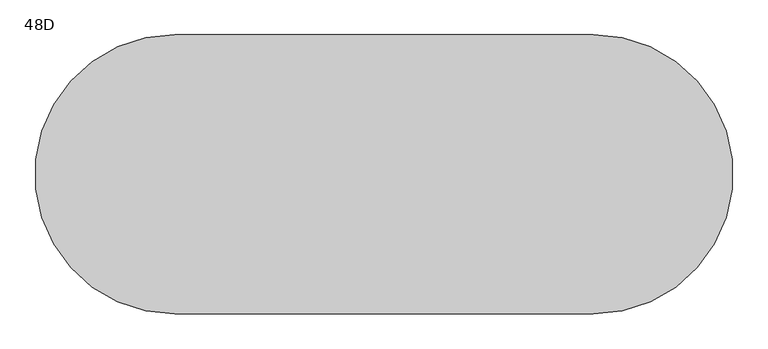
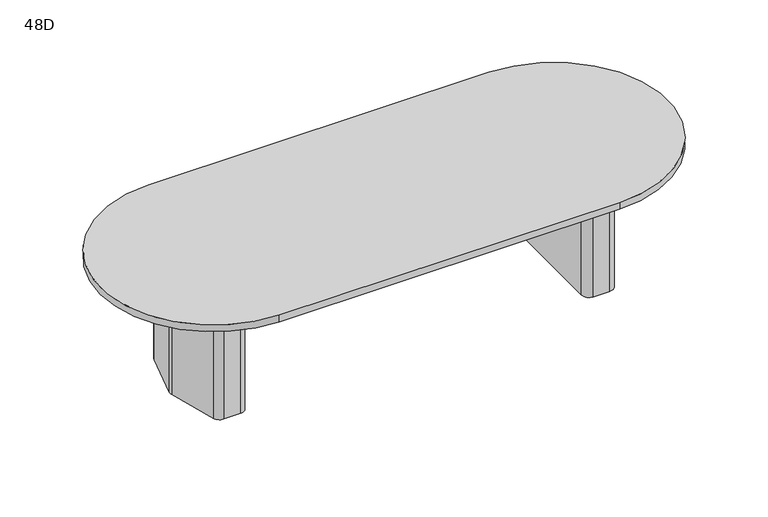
"""IFC4 building model written with IfcOpenShell, lengths in millimetres: furniture geometry, Coalesse_AM_Table_Conference_ETable2_Racetrack_10ft_TwoBase : 48D."""

import ifcopenshell
import ifcopenshell.guid

model = None  # the IFC model being written
_history = None  # IfcOwnerHistory: only IFC2X3 demands one
_inside = {}  # id of a spatial element -> (the spatial element, [elements in it])
_under = {}  # id of a project, library or spatial element -> (it, [spatial elements below it])
_declared = {}  # id of a project -> (the project, [libraries it declares])
_typed = {}  # id of a type object -> (the type object, [elements of that type])
_made_of = {}  # id of a material, layer set ... -> (it, [elements and type objects made of it])


def new_model(schema):
    """Start an empty IFC model of exactly this schema.

    Asked for "IFC4X3", IfcOpenShell would pick the latest addendum, in which some entities
    have other attributes; the version numbers below select the first issue.
    IFC2X3 requires an IfcOwnerHistory on every rooted entity: one is made here for all.
    """
    global model, _history
    if schema == "IFC4X3":
        model = ifcopenshell.file(schema_version=(4, 3, 0, 0))
    else:
        model = ifcopenshell.file(schema=schema)
    _inside.clear()
    _under.clear()
    _declared.clear()
    _typed.clear()
    _made_of.clear()
    _history = None
    if model.schema == "IFC2X3":
        org = make("IfcOrganization", Name="unknown")
        user = make(
            "IfcPersonAndOrganization",
            ThePerson=make("IfcPerson", FamilyName="unknown"),
            TheOrganization=org,
        )
        app = make(
            "IfcApplication",
            ApplicationDeveloper=org,
            Version="unknown",
            ApplicationFullName="unknown",
            ApplicationIdentifier="unknown",
        )
        _history = make(
            "IfcOwnerHistory",
            OwningUser=user,
            OwningApplication=app,
            ChangeAction="ADDED",
            CreationDate=0,
        )
    return model


def make(cls, **values):
    """One entity of the class cls with the attributes given. An attribute that is None is left unset."""
    return model.create_entity(
        cls, **{name: value for name, value in values.items() if value is not None}
    )


def rooted(cls, **values):
    """An entity with a GlobalId (a new one), such as an element, a storey or a relation."""
    return make(cls, GlobalId=ifcopenshell.guid.new(), OwnerHistory=_history, **values)


def si_unit(unit_type, name, prefix=None):
    """IfcSIUnit, for example si_unit("LENGTHUNIT", "METRE", prefix="MILLI")."""
    return make("IfcSIUnit", UnitType=unit_type, Prefix=prefix, Name=name)


def assignment(units):
    """IfcUnitAssignment: the units of a project."""
    return None if units is None else make("IfcUnitAssignment", Units=units)


def point(xyz):
    """IfcCartesianPoint."""
    return None if xyz is None else make("IfcCartesianPoint", Coordinates=xyz)


def direction(xyz):
    """IfcDirection."""
    return None if xyz is None else make("IfcDirection", DirectionRatios=xyz)


def frame(location, z_axis=None, x_axis=None):
    """IfcAxis2Placement3D, a coordinate frame: its origin and axes. An axis left out is left unset."""
    return make(
        "IfcAxis2Placement3D",
        Location=point(location),
        Axis=direction(z_axis),
        RefDirection=direction(x_axis),
    )


def frame_2d(location, x_axis=None):
    """IfcAxis2Placement2D, a coordinate frame in the plane: its origin and x axis."""
    return make(
        "IfcAxis2Placement2D", Location=point(location), RefDirection=direction(x_axis)
    )


def origin():
    """The frame at (0, 0, 0) with its axes left unset."""
    return frame((0.0, 0.0, 0.0))


def place(relative_to, where):
    """IfcLocalPlacement: puts the frame where relative to a parent placement (None: the world)."""
    return make(
        "IfcLocalPlacement", PlacementRelTo=relative_to, RelativePlacement=where
    )


def context(
    kind, dimensions, precision=None, world=None, true_north=None, identifier=None
):
    """IfcGeometricRepresentationContext, for example the 3D "Model" context."""
    return make(
        "IfcGeometricRepresentationContext",
        ContextIdentifier=identifier,
        ContextType=kind,
        CoordinateSpaceDimension=dimensions,
        Precision=precision,
        WorldCoordinateSystem=world,
        TrueNorth=true_north,
    )


def project(units=None, contexts=None):
    """IfcProject with its units and contexts."""
    return rooted(
        "IfcProject",
        Name="project",
        RepresentationContexts=contexts,
        UnitsInContext=assignment(units),
    )


def spatial(cls, under=None, at=None, **own):
    """A site, building, storey or space (cls), placed at a placement, below another one or the project."""
    s = rooted(cls, ObjectPlacement=at, **own)
    if under is not None:
        _under.setdefault(under.id(), (under, []))[1].append(s)
    return s


def polyline(points):
    """IfcPolyline through the points."""
    return make("IfcPolyline", Points=[point(p) for p in points])


def circle_curve(where, radius):
    """IfcCircle in the frame where."""
    return make("IfcCircle", Position=where, Radius=radius)


def trimmed(basis, trim1, trim2, sense, master):
    """IfcTrimmedCurve: the piece of a basis curve between two trims."""
    return make(
        "IfcTrimmedCurve",
        BasisCurve=basis,
        Trim1=trim1,
        Trim2=trim2,
        SenseAgreement=sense,
        MasterRepresentation=master,
    )


def segment(curve, same_sense, transition):
    """IfcCompositeCurveSegment."""
    return make(
        "IfcCompositeCurveSegment",
        Transition=transition,
        SameSense=same_sense,
        ParentCurve=curve,
    )


def composite_curve(segments, self_intersect=None):
    """IfcCompositeCurve: segments joined end to end."""
    return make("IfcCompositeCurve", Segments=segments, SelfIntersect=self_intersect)


def outline(outer, holes=None, kind="AREA"):
    """IfcArbitraryClosedProfileDef: a profile drawn as a closed curve; with holes, ...WithVoids."""
    if holes is None:
        return make("IfcArbitraryClosedProfileDef", ProfileType=kind, OuterCurve=outer)
    return make(
        "IfcArbitraryProfileDefWithVoids",
        ProfileType=kind,
        OuterCurve=outer,
        InnerCurves=holes,
    )


def extrude(swept, where, along, depth):
    """IfcExtrudedAreaSolid: the profile swept, set in the frame where, extruded along a direction by depth."""
    return make(
        "IfcExtrudedAreaSolid",
        SweptArea=swept,
        Position=where,
        ExtrudedDirection=direction(along),
        Depth=depth,
    )


def shape(context_of_items, identifier, shape_type, items):
    """IfcShapeRepresentation: the items that make up one representation, for example the "Body"."""
    return make(
        "IfcShapeRepresentation",
        ContextOfItems=context_of_items,
        RepresentationIdentifier=identifier,
        RepresentationType=shape_type,
        Items=items,
    )


def source(mapping_origin, context_of_items, identifier, shape_type, items):
    """IfcRepresentationMap: a shape defined once, which mapped items show again and again."""
    return make(
        "IfcRepresentationMap",
        MappingOrigin=mapping_origin,
        MappedRepresentation=shape(context_of_items, identifier, shape_type, items),
    )


def transform(
    local_origin,
    x_axis=None,
    y_axis=None,
    z_axis=None,
    scale=None,
    scale2=None,
    scale3=None,
    uniform=True,
):
    """IfcCartesianTransformationOperator3D, or its non-uniform kind. x_axis, y_axis, z_axis: its Axis1, 2, 3."""
    if uniform:
        return make(
            "IfcCartesianTransformationOperator3D",
            Axis1=direction(x_axis),
            Axis2=direction(y_axis),
            LocalOrigin=point(local_origin),
            Scale=scale,
            Axis3=direction(z_axis),
        )
    return make(
        "IfcCartesianTransformationOperator3DnonUniform",
        Axis1=direction(x_axis),
        Axis2=direction(y_axis),
        LocalOrigin=point(local_origin),
        Scale=scale,
        Axis3=direction(z_axis),
        Scale2=scale2,
        Scale3=scale3,
    )


def mapped(mapping_source, mapping_target):
    """IfcMappedItem: shows the shape of a source again, moved by a transform."""
    return make(
        "IfcMappedItem", MappingSource=mapping_source, MappingTarget=mapping_target
    )


def made_of(thing, what):
    """Note that an element or type object is made of a material, layer set ...; save() writes the relation."""
    if what is not None:
        _made_of.setdefault(what.id(), (what, []))[1].append(thing)
    return thing


def element(
    cls,
    number,
    at=None,
    inside=None,
    cuts=None,
    type_object=None,
    material=None,
    context=None,
    identifier="Body",
    shape_type=None,
    held_by="IfcProductDefinitionShape",
    body=None,
    shapes=None,
    **own,
):
    """One element of the class cls, such as IfcWall. Its Tag is "e" and its number.

    at: its placement. inside: the storey or other place that contains it. cuts: it is an
    opening in that element (IfcRelVoidsElement). A single representation is given by context,
    identifier, shape_type and body (its items); several are given by shapes. held_by: the class
    of the entity that holds the representations. save() writes the other relations.
    """
    e = rooted(cls, Tag="e%d" % number, ObjectPlacement=at, **own)
    if body is not None:
        shapes = [shape(context, identifier, shape_type, body)]
    if shapes is not None:
        e.Representation = make(held_by, Representations=shapes)
    if inside is not None:
        _inside.setdefault(inside.id(), (inside, []))[1].append(e)
    if cuts is not None:
        rooted(
            "IfcRelVoidsElement", RelatingBuildingElement=cuts, RelatedOpeningElement=e
        )
    if type_object is not None:
        _typed.setdefault(type_object.id(), (type_object, []))[1].append(e)
    return made_of(e, material)


def aggregate(whole, parts):
    """IfcRelAggregates: a whole, such as a stair, and the parts it consists of."""
    return rooted("IfcRelAggregates", RelatingObject=whole, RelatedObjects=parts)


def save(model, path):
    """Write the relations noted so far, then the file.

    IfcRelAggregates (storeys below a building ...), IfcRelContainedInSpatialStructure (elements
    in a storey), IfcRelDefinesByType, IfcRelAssociatesMaterial and IfcRelDeclares: one each for
    every whole, place, type object, material and project.
    """
    for whole, parts in _under.values():
        aggregate(whole, parts)
    for where, things in _inside.values():
        rooted(
            "IfcRelContainedInSpatialStructure",
            RelatedElements=things,
            RelatingStructure=where,
        )
    for kind, things in _typed.values():
        rooted("IfcRelDefinesByType", RelatedObjects=things, RelatingType=kind)
    for what, things in _made_of.values():
        rooted("IfcRelAssociatesMaterial", RelatedObjects=things, RelatingMaterial=what)
    for by, libraries in _declared.values():
        rooted("IfcRelDeclares", RelatingContext=by, RelatedDefinitions=libraries)
    model.write(path)


def plane_surface(at):
    """IfcPlane: the flat surface through the origin of the frame at, square to its z axis."""
    return make("IfcPlane", Position=at)


def cylinder_surface(at, radius):
    """IfcCylindricalSurface: all points at the distance radius from the z axis of the frame at."""
    return make("IfcCylindricalSurface", Position=at, Radius=radius)


def revolved_surface(curve, axis_point, axis_direction):
    """IfcSurfaceOfRevolution: the curve turned about the line through axis_point along axis_direction."""
    return make(
        "IfcSurfaceOfRevolution",
        SweptCurve=make("IfcArbitraryOpenProfileDef", ProfileType="CURVE", Curve=curve),
        AxisPosition=make("IfcAxis1Placement", Location=point(axis_point), Axis=direction(axis_direction)),
    )


def advanced_brep(points, edges, surfaces, faces):
    """IfcAdvancedBrep: a solid bounded by faces that lie on surfaces and meet in shared edges.

    An edge is (start, end): straight between two places in points (the first is 0);
    or (start, end, curve); or (start, end, curve, False) where it runs against its curve.
    A face is (place in surfaces, loops), or (place, loops, False) where it looks against
    its surface's normal. A loop lists edges by number (the first is 1), with a minus sign
    where the edge is run from its end to its start. The first loop is the outer one.
    """
    corners = [point(p) for p in points]
    vertices = [make("IfcVertexPoint", VertexGeometry=c) for c in corners]
    made = []
    for start, end, *more in edges:
        made.append(
            make(
                "IfcEdgeCurve",
                EdgeStart=vertices[start],
                EdgeEnd=vertices[end],
                EdgeGeometry=more[0] if more else make("IfcPolyline", Points=[corners[start], corners[end]]),
                SameSense=more[1] if len(more) > 1 else True,
            )
        )
    hull = []
    for where, loops, *sense in faces:
        bounds = []
        for j, loop in enumerate(loops):
            ring = [make("IfcOrientedEdge", EdgeElement=made[abs(k) - 1], Orientation=k > 0) for k in loop]
            bounds.append(
                make(
                    "IfcFaceOuterBound" if j == 0 else "IfcFaceBound",
                    Bound=make("IfcEdgeLoop", EdgeList=ring),
                    Orientation=True,
                )
            )
        hull.append(make("IfcAdvancedFace", Bounds=bounds, FaceSurface=surfaces[where], SameSense=sense[0] if sense else True))
    return make("IfcAdvancedBrep", Outer=make("IfcClosedShell", CfsFaces=hull))


def furniture_48d_55570f43(model_context):
    return source(origin(), model_context, "Body", "SolidModel", [
        advanced_brep(
        [(1078.124548, 274.2093613, 698.5), (1038.2579246, 304.8, 698.5), (949.325, 304.8, 698.5), (908.05, 263.525, 698.5), (908.05, -263.525, 698.5), (949.325, -304.8, 698.5), (1038.2579246, -304.8, 698.5), (1078.124548, -274.2093613, 698.5), (1148.7503901, -10.6333708, 698.5), (1148.7503901, 10.6333708, 698.5), (946.15, -206.375, 698.5), (946.15, 206.375, 698.5), (971.55, 231.775, 698.5), (1030.5608422, 231.775, 698.5), (1055.095338, 212.9490792, 698.5), (1093.7875, 68.54974, 698.5), (1093.7875, -68.54974, 698.5), (1055.095338, -212.9490792, 698.5), (1030.5608422, -231.775, 698.5), (971.55, -231.775, 698.5), (1078.124548, 274.2093613, 3.175), (1148.7503901, 10.6333708, 3.175), (1148.7503901, -10.6333708, 3.175), (1078.124548, -274.2093613, 3.175), (1038.2579246, -304.8, 3.175), (949.325, -304.8, 3.175), (908.05, -263.525, 3.175), (908.05, 263.525, 3.175), (949.325, 304.8, 3.175), (1038.2579246, 304.8, 3.175), (1067.3625859, 216.2361187, 3.175), (1030.5608422, 244.475, 3.175), (971.55, 244.475, 3.175), (933.45, 206.375, 3.175), (933.45, -206.375, 3.175), (971.55, -244.475, 3.175), (1030.5608422, -244.475, 3.175), (1067.3625859, -216.2361187, 3.175), (1106.4875, -70.2217466, 3.175), (1106.4875, 70.2217466, 3.175), (971.55, -231.775, 3.175), (946.15, -206.375, 3.175), (1030.5608422, -231.775, 3.175), (1055.095338, -212.9490792, 3.175), (1093.7875, -68.54974, 3.175), (1093.7875, 68.54974, 3.175), (1055.095338, 212.9490792, 3.175), (1030.5608422, 231.775, 3.175), (971.55, 231.775, 3.175), (946.15, 206.375, 3.175), (1067.3625859, 216.2361187, 0.0), (1106.4875, 70.2217466, 0.0), (1106.4875, -70.2217466, 0.0), (1067.3625859, -216.2361187, 0.0), (1030.5608422, -244.475, 0.0), (971.55, -244.475, 0.0), (933.45, -206.375, 0.0), (933.45, 206.375, 0.0), (971.55, 244.475, 0.0), (1030.5608422, 244.475, 0.0)],
        [
            (0, 1, circle_curve(frame((1038.2579246, 263.5270004, 698.5), z_axis=(0.0, 0.0, 1.0), x_axis=(-1.0, 0.0, 0.0)), 41.2729996)),
            (1, 2),
            (2, 3, circle_curve(frame((949.325, 263.525, 698.5), z_axis=(0.0, 0.0, 1.0), x_axis=(-1.0, 0.0, 0.0)), 41.275)),
            (3, 4),
            (4, 5, circle_curve(frame((949.325, -263.525, 698.5), z_axis=(0.0, 0.0, 1.0), x_axis=(-1.0, 0.0, 0.0)), 41.275)),
            (5, 6),
            (6, 7, circle_curve(frame((1038.2579246, -263.5270004, 698.5), z_axis=(0.0, 0.0, 1.0), x_axis=(-1.0, 0.0, 0.0)), 41.2729996)),
            (7, 8),
            (8, 9, circle_curve(frame((1109.0665979, 0.0, 698.5), z_axis=(0.0, 0.0, 1.0), x_axis=(-1.0, 0.0, 0.0)), 41.0837187)),
            (9, 0),
            (10, 11),
            (11, 12, circle_curve(frame((971.55, 206.375, 698.5), z_axis=(0.0, 0.0, -1.0), x_axis=(-1.0, 0.0, 0.0)), 25.4)),
            (12, 13),
            (13, 14, circle_curve(frame((1030.5608422, 206.375, 698.5), z_axis=(0.0, 0.0, -1.0), x_axis=(-1.0, 0.0, 0.0)), 25.4)),
            (14, 15),
            (15, 16),
            (16, 17),
            (17, 18, circle_curve(frame((1030.5608422, -206.375, 698.5), z_axis=(0.0, 0.0, -1.0), x_axis=(-1.0, 0.0, 0.0)), 25.4)),
            (18, 19),
            (19, 10, circle_curve(frame((971.55, -206.375, 698.5), z_axis=(0.0, 0.0, -1.0), x_axis=(-1.0, 0.0, 0.0)), 25.4)),
            (20, 21),
            (21, 22, circle_curve(frame((1109.0665979, 0.0, 3.175), z_axis=(0.0, 0.0, -1.0), x_axis=(-1.0, 0.0, 0.0)), 41.0837187)),
            (22, 23),
            (23, 24, circle_curve(frame((1038.2579246, -263.5270004, 3.175), z_axis=(0.0, 0.0, -1.0), x_axis=(-1.0, 0.0, 0.0)), 41.2729996)),
            (24, 25),
            (25, 26, circle_curve(frame((949.325, -263.525, 3.175), z_axis=(0.0, 0.0, -1.0), x_axis=(-1.0, 0.0, 0.0)), 41.275)),
            (26, 27),
            (27, 28, circle_curve(frame((949.325, 263.525, 3.175), z_axis=(0.0, 0.0, -1.0), x_axis=(-1.0, 0.0, 0.0)), 41.275)),
            (28, 29),
            (29, 20, circle_curve(frame((1038.2579246, 263.5270004, 3.175), z_axis=(0.0, 0.0, -1.0), x_axis=(-1.0, 0.0, 0.0)), 41.2729996)),
            (30, 31, circle_curve(frame((1030.5608422, 206.375, 3.175), z_axis=(0.0, 0.0, 1.0), x_axis=(-1.0, 0.0, 0.0)), 38.1)),
            (31, 32),
            (32, 33, circle_curve(frame((971.55, 206.375, 3.175), z_axis=(0.0, 0.0, 1.0), x_axis=(-1.0, 0.0, 0.0)), 38.1)),
            (33, 34),
            (34, 35, circle_curve(frame((971.55, -206.375, 3.175), z_axis=(0.0, 0.0, 1.0), x_axis=(-1.0, 0.0, 0.0)), 38.1)),
            (35, 36),
            (36, 37, circle_curve(frame((1030.5608422, -206.375, 3.175), z_axis=(0.0, 0.0, 1.0), x_axis=(-1.0, 0.0, 0.0)), 38.1)),
            (37, 38),
            (38, 39),
            (39, 30),
            (9, 21),
            (20, 0),
            (8, 22),
            (7, 23),
            (6, 24),
            (5, 25),
            (4, 26),
            (3, 27),
            (2, 28),
            (1, 29),
            (19, 40),
            (40, 41, circle_curve(frame((971.55, -206.375, 3.175), z_axis=(0.0, 0.0, -1.0), x_axis=(-1.0, 0.0, 0.0)), 25.4)),
            (41, 10),
            (18, 42),
            (42, 40),
            (17, 43),
            (43, 42, circle_curve(frame((1030.5608422, -206.375, 3.175), z_axis=(0.0, 0.0, -1.0), x_axis=(-1.0, 0.0, 0.0)), 25.4)),
            (16, 44),
            (44, 43),
            (15, 45),
            (45, 44),
            (14, 46),
            (46, 45),
            (13, 47),
            (47, 46, circle_curve(frame((1030.5608422, 206.375, 3.175), z_axis=(0.0, 0.0, -1.0), x_axis=(-1.0, 0.0, 0.0)), 25.4)),
            (12, 48),
            (48, 47),
            (11, 49),
            (49, 48, circle_curve(frame((971.55, 206.375, 3.175), z_axis=(0.0, 0.0, -1.0), x_axis=(-1.0, 0.0, 0.0)), 25.4)),
            (41, 49),
            (50, 51),
            (51, 52),
            (52, 53),
            (53, 54, circle_curve(frame((1030.5608422, -206.375, 0.0), z_axis=(0.0, 0.0, -1.0), x_axis=(-1.0, 0.0, 0.0)), 38.1)),
            (54, 55),
            (55, 56, circle_curve(frame((971.55, -206.375, 0.0), z_axis=(0.0, 0.0, -1.0), x_axis=(-1.0, 0.0, 0.0)), 38.1)),
            (56, 57),
            (57, 58, circle_curve(frame((971.55, 206.375, 0.0), z_axis=(0.0, 0.0, -1.0), x_axis=(-1.0, 0.0, 0.0)), 38.1)),
            (58, 59),
            (59, 50, circle_curve(frame((1030.5608422, 206.375, 0.0), z_axis=(0.0, 0.0, -1.0), x_axis=(-1.0, 0.0, 0.0)), 38.1)),
            (50, 30),
            (39, 51),
            (38, 52),
            (37, 53),
            (36, 54),
            (35, 55),
            (34, 56),
            (33, 57),
            (32, 58),
            (31, 59),
        ],
        [
            plane_surface(frame((1148.7374275, 10.6817473, 698.5), z_axis=(0.0, 0.0, 1.0000000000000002), x_axis=(0.25882201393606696, -0.9659250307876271, 0.0))),
            plane_surface(frame((1148.7374275, 10.6817473, 3.175), z_axis=(0.0, 0.0, -1.0000000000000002), x_axis=(-0.25882201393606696, 0.9659250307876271, 0.0))),
            plane_surface(frame((1078.124548, 274.2093613, 698.5), z_axis=(0.9659250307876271, 0.25882201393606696, 0.0), x_axis=(0.0, 0.0, -1.0))),
            cylinder_surface(frame((1109.0665979, 0.0, 3.175), z_axis=(0.0, 0.0, 1.0), x_axis=(-1.0, 0.0, 0.0)), 41.0837187),
            plane_surface(frame((1148.7503901, -10.6333708, 698.5), z_axis=(0.9659250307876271, -0.2588220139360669, 0.0), x_axis=(0.0, 0.0, -1.0))),
            cylinder_surface(frame((1038.2579246, -263.5270004, 3.175), z_axis=(0.0, 0.0, 1.0), x_axis=(-1.0, 0.0, 0.0)), 41.2729996),
            plane_surface(frame((1038.2579246, -304.8, 698.5), z_axis=(0.0, -1.0, 0.0), x_axis=(0.0, 0.0, -1.0))),
            cylinder_surface(frame((949.325, -263.525, 3.175), z_axis=(0.0, 0.0, 1.0), x_axis=(-1.0, 0.0, 0.0)), 41.275),
            plane_surface(frame((908.05, -263.525, 698.5), z_axis=(-1.0, 0.0, 0.0), x_axis=(0.0, 0.0, -1.0))),
            cylinder_surface(frame((949.325, 263.525, 3.175), z_axis=(0.0, 0.0, 1.0), x_axis=(-1.0, 0.0, 0.0)), 41.275),
            plane_surface(frame((949.325, 304.8, 698.5), z_axis=(0.0, 1.0, 0.0), x_axis=(0.0, 0.0, -1.0))),
            cylinder_surface(frame((1038.2579246, 263.5270004, 3.175), z_axis=(0.0, 0.0, 1.0), x_axis=(-1.0, 0.0, 0.0)), 41.2729996),
            revolved_surface(polyline([(946.15, -206.375, 3.175), (946.15, -206.375, 698.5)]), (971.55, -206.375, 0.0), (0.0, 0.0, -1.0)),
            plane_surface(frame((971.55, -231.775, 698.5), z_axis=(0.0, 1.0, 0.0), x_axis=(0.0, 0.0, -1.0))),
            revolved_surface(polyline([(1005.1608422, -206.375, 3.175), (1005.1608422, -206.375, 698.5)]), (1030.5608422, -206.375, 0.0), (0.0, 0.0, -1.0)),
            plane_surface(frame((1055.095338, -212.9490792, 698.5), z_axis=(-0.9659250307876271, 0.2588220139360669, 0.0), x_axis=(0.0, 0.0, -1.0))),
            plane_surface(frame((1093.7875, -68.54974, 698.5), z_axis=(-1.0, 0.0, 0.0), x_axis=(0.0, 0.0, -1.0))),
            plane_surface(frame((1093.7875, 68.54974, 698.5), z_axis=(-0.9659250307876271, -0.25882201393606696, 0.0), x_axis=(0.0, 0.0, -1.0))),
            revolved_surface(polyline([(1005.1608422, 206.375, 3.175), (1005.1608422, 206.375, 698.5)]), (1030.5608422, 206.375, 0.0), (0.0, 0.0, -1.0)),
            plane_surface(frame((1030.5608422, 231.775, 698.5), z_axis=(0.0, -1.0, 0.0), x_axis=(0.0, 0.0, -1.0))),
            revolved_surface(polyline([(946.15, 206.375, 3.175), (946.15, 206.375, 698.5)]), (971.55, 206.375, 0.0), (0.0, 0.0, -1.0)),
            plane_surface(frame((946.15, 206.375, 698.5), z_axis=(1.0, 0.0, 0.0), x_axis=(0.0, 0.0, -1.0))),
            plane_surface(frame((1106.0547479, 71.8367796, 3.175), z_axis=(0.0, 0.0, 1.0), x_axis=(0.25882201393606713, -0.965925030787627, 0.0))),
            plane_surface(frame((1106.0547479, 71.8367796, 0.0), z_axis=(0.0, 0.0, -1.0), x_axis=(-0.25882201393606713, 0.965925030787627, 0.0))),
            plane_surface(frame((1067.3625859, 216.2361187, 3.175), z_axis=(0.965925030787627, 0.25882201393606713, 0.0), x_axis=(0.0, 0.0, -1.0))),
            plane_surface(frame((1106.4875, 70.2217466, 3.175), z_axis=(1.0, 0.0, 0.0), x_axis=(0.0, 0.0, -1.0))),
            plane_surface(frame((1106.4875, -70.2217466, 3.175), z_axis=(0.9659250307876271, -0.2588220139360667, 0.0), x_axis=(0.0, 0.0, -1.0))),
            cylinder_surface(frame((1030.5608422, -206.375, 0.0), z_axis=(0.0, 0.0, 1.0), x_axis=(-1.0, 0.0, 0.0)), 38.1),
            plane_surface(frame((1030.5608422, -244.475, 3.175), z_axis=(0.0, -1.0, 0.0), x_axis=(0.0, 0.0, -1.0))),
            cylinder_surface(frame((971.55, -206.375, 0.0), z_axis=(0.0, 0.0, 1.0), x_axis=(-1.0, 0.0, 0.0)), 38.1),
            plane_surface(frame((933.45, -206.375, 3.175), z_axis=(-1.0, 0.0, 0.0), x_axis=(0.0, 0.0, -1.0))),
            cylinder_surface(frame((971.55, 206.375, 0.0), z_axis=(0.0, 0.0, 1.0), x_axis=(-1.0, 0.0, 0.0)), 38.1),
            plane_surface(frame((971.55, 244.475, 3.175), z_axis=(0.0, 1.0, 0.0), x_axis=(0.0, 0.0, -1.0))),
            cylinder_surface(frame((1030.5608422, 206.375, 0.0), z_axis=(0.0, 0.0, 1.0), x_axis=(-1.0, 0.0, 0.0)), 38.1),
        ],
        [
            (0, [[1, 2, 3, 4, 5, 6, 7, 8, 9, 10], [11, 12, 13, 14, 15, 16, 17, 18, 19, 20]]),
            (1, [[21, 22, 23, 24, 25, 26, 27, 28, 29, 30], [31, 32, 33, 34, 35, 36, 37, 38, 39, 40]]),
            (2, [[41, -21, 42, -10]]),
            (3, [[43, -22, -41, -9]]),
            (4, [[44, -23, -43, -8]]),
            (5, [[45, -24, -44, -7]]),
            (6, [[46, -25, -45, -6]]),
            (7, [[47, -26, -46, -5]]),
            (8, [[48, -27, -47, -4]]),
            (9, [[49, -28, -48, -3]]),
            (10, [[50, -29, -49, -2]]),
            (11, [[-42, -30, -50, -1]]),
            (12, [[51, 52, 53, -20]]),
            (13, [[54, 55, -51, -19]]),
            (14, [[56, 57, -54, -18]]),
            (15, [[58, 59, -56, -17]]),
            (16, [[60, 61, -58, -16]]),
            (17, [[62, 63, -60, -15]]),
            (18, [[64, 65, -62, -14]]),
            (19, [[66, 67, -64, -13]]),
            (20, [[68, 69, -66, -12]]),
            (21, [[-53, 70, -68, -11]]),
            (22, [[-55, -57, -59, -61, -63, -65, -67, -69, -70, -52]]),
            (23, [[71, 72, 73, 74, 75, 76, 77, 78, 79, 80]]),
            (24, [[81, -40, 82, -71]]),
            (25, [[-82, -39, 83, -72]]),
            (26, [[-83, -38, 84, -73]]),
            (27, [[-84, -37, 85, -74]]),
            (28, [[-85, -36, 86, -75]]),
            (29, [[-86, -35, 87, -76]]),
            (30, [[-87, -34, 88, -77]]),
            (31, [[-88, -33, 89, -78]]),
            (32, [[-89, -32, 90, -79]]),
            (33, [[-90, -31, -81, -80]]),
        ],
    ),
        advanced_brep(
        [(-1076.537048, 274.2093613, 698.5), (-1147.1628901, 10.6333708, 698.5), (-1147.1628901, -10.6333708, 698.5), (-1076.537048, -274.2093613, 698.5), (-1036.6704246, -304.8, 698.5), (-947.7375, -304.8, 698.5), (-906.4625, -263.525, 698.5), (-906.4625, 263.525, 698.5), (-947.7375, 304.8, 698.5), (-1036.6704246, 304.8, 698.5), (-944.5625, -206.375, 698.5), (-969.9625, -231.775, 698.5), (-1028.9733422, -231.775, 698.5), (-1053.507838, -212.9490792, 698.5), (-1092.2, -68.54974, 698.5), (-1092.2, 68.54974, 698.5), (-1053.507838, 212.9490792, 698.5), (-1028.9733422, 231.775, 698.5), (-969.9625, 231.775, 698.5), (-944.5625, 206.375, 698.5), (-1076.537048, 274.2093613, 3.175), (-1036.6704246, 304.8, 3.175), (-947.7375, 304.8, 3.175), (-906.4625, 263.525, 3.175), (-906.4625, -263.525, 3.175), (-947.7375, -304.8, 3.175), (-1036.6704246, -304.8, 3.175), (-1076.537048, -274.2093613, 3.175), (-1147.1628901, -10.6333708, 3.175), (-1147.1628901, 10.6333708, 3.175), (-1065.7750859, 216.2361187, 3.175), (-1104.9, 70.2217466, 3.175), (-1104.9, -70.2217466, 3.175), (-1065.7750859, -216.2361187, 3.175), (-1028.9733422, -244.475, 3.175), (-969.9625, -244.475, 3.175), (-931.8625, -206.375, 3.175), (-931.8625, 206.375, 3.175), (-969.9625, 244.475, 3.175), (-1028.9733422, 244.475, 3.175), (-944.5625, -206.375, 3.175), (-969.9625, -231.775, 3.175), (-1028.9733422, -231.775, 3.175), (-1053.507838, -212.9490792, 3.175), (-1092.2, -68.54974, 3.175), (-1092.2, 68.54974, 3.175), (-1053.507838, 212.9490792, 3.175), (-1028.9733422, 231.775, 3.175), (-969.9625, 231.775, 3.175), (-944.5625, 206.375, 3.175), (-1065.7750859, 216.2361187, 0.0), (-1028.9733422, 244.475, 0.0), (-969.9625, 244.475, 0.0), (-931.8625, 206.375, 0.0), (-931.8625, -206.375, 0.0), (-969.9625, -244.475, 0.0), (-1028.9733422, -244.475, 0.0), (-1065.7750859, -216.2361187, 0.0), (-1104.9, -70.2217466, 0.0), (-1104.9, 70.2217466, 0.0)],
        [
            (0, 1),
            (1, 2, circle_curve(frame((-1107.4790979, 0.0, 698.5), z_axis=(0.0, 0.0, 1.0), x_axis=(1.0, 0.0, 0.0)), 41.0837187)),
            (2, 3),
            (3, 4, circle_curve(frame((-1036.6704246, -263.5270004, 698.5), z_axis=(0.0, 0.0, 1.0), x_axis=(1.0, 0.0, 0.0)), 41.2729996)),
            (4, 5),
            (5, 6, circle_curve(frame((-947.7375, -263.525, 698.5), z_axis=(0.0, 0.0, 1.0), x_axis=(1.0, 0.0, 0.0)), 41.275)),
            (6, 7),
            (7, 8, circle_curve(frame((-947.7375, 263.525, 698.5), z_axis=(0.0, 0.0, 1.0), x_axis=(1.0, 0.0, 0.0)), 41.275)),
            (8, 9),
            (9, 0, circle_curve(frame((-1036.6704246, 263.5270004, 698.5), z_axis=(0.0, 0.0, 1.0), x_axis=(1.0, 0.0, 0.0)), 41.2729996)),
            (10, 11, circle_curve(frame((-969.9625, -206.375, 698.5), z_axis=(0.0, 0.0, -1.0), x_axis=(1.0, 0.0, 0.0)), 25.4)),
            (11, 12),
            (12, 13, circle_curve(frame((-1028.9733422, -206.375, 698.5), z_axis=(0.0, 0.0, -1.0), x_axis=(1.0, 0.0, 0.0)), 25.4)),
            (13, 14),
            (14, 15),
            (15, 16),
            (16, 17, circle_curve(frame((-1028.9733422, 206.375, 698.5), z_axis=(0.0, 0.0, -1.0), x_axis=(1.0, 0.0, 0.0)), 25.4)),
            (17, 18),
            (18, 19, circle_curve(frame((-969.9625, 206.375, 698.5), z_axis=(0.0, 0.0, -1.0), x_axis=(1.0, 0.0, 0.0)), 25.4)),
            (19, 10),
            (20, 21, circle_curve(frame((-1036.6704246, 263.5270004, 3.175), z_axis=(0.0, 0.0, -1.0), x_axis=(1.0, 0.0, 0.0)), 41.2729996)),
            (21, 22),
            (22, 23, circle_curve(frame((-947.7375, 263.525, 3.175), z_axis=(0.0, 0.0, -1.0), x_axis=(1.0, 0.0, 0.0)), 41.275)),
            (23, 24),
            (24, 25, circle_curve(frame((-947.7375, -263.525, 3.175), z_axis=(0.0, 0.0, -1.0), x_axis=(1.0, 0.0, 0.0)), 41.275)),
            (25, 26),
            (26, 27, circle_curve(frame((-1036.6704246, -263.5270004, 3.175), z_axis=(0.0, 0.0, -1.0), x_axis=(1.0, 0.0, 0.0)), 41.2729996)),
            (27, 28),
            (28, 29, circle_curve(frame((-1107.4790979, 0.0, 3.175), z_axis=(0.0, 0.0, -1.0), x_axis=(1.0, 0.0, 0.0)), 41.0837187)),
            (29, 20),
            (30, 31),
            (31, 32),
            (32, 33),
            (33, 34, circle_curve(frame((-1028.9733422, -206.375, 3.175), z_axis=(0.0, 0.0, 1.0), x_axis=(1.0, 0.0, 0.0)), 38.1)),
            (34, 35),
            (35, 36, circle_curve(frame((-969.9625, -206.375, 3.175), z_axis=(0.0, 0.0, 1.0), x_axis=(1.0, 0.0, 0.0)), 38.1)),
            (36, 37),
            (37, 38, circle_curve(frame((-969.9625, 206.375, 3.175), z_axis=(0.0, 0.0, 1.0), x_axis=(1.0, 0.0, 0.0)), 38.1)),
            (38, 39),
            (39, 30, circle_curve(frame((-1028.9733422, 206.375, 3.175), z_axis=(0.0, 0.0, 1.0), x_axis=(1.0, 0.0, 0.0)), 38.1)),
            (0, 20),
            (29, 1),
            (28, 2),
            (27, 3),
            (26, 4),
            (25, 5),
            (24, 6),
            (23, 7),
            (22, 8),
            (21, 9),
            (10, 40),
            (40, 41, circle_curve(frame((-969.9625, -206.375, 3.175), z_axis=(0.0, 0.0, -1.0), x_axis=(1.0, 0.0, 0.0)), 25.4)),
            (41, 11),
            (41, 42),
            (42, 12),
            (42, 43, circle_curve(frame((-1028.9733422, -206.375, 3.175), z_axis=(0.0, 0.0, -1.0), x_axis=(1.0, 0.0, 0.0)), 25.4)),
            (43, 13),
            (43, 44),
            (44, 14),
            (44, 45),
            (45, 15),
            (45, 46),
            (46, 16),
            (46, 47, circle_curve(frame((-1028.9733422, 206.375, 3.175), z_axis=(0.0, 0.0, -1.0), x_axis=(1.0, 0.0, 0.0)), 25.4)),
            (47, 17),
            (47, 48),
            (48, 18),
            (48, 49, circle_curve(frame((-969.9625, 206.375, 3.175), z_axis=(0.0, 0.0, -1.0), x_axis=(1.0, 0.0, 0.0)), 25.4)),
            (49, 19),
            (49, 40),
            (50, 51, circle_curve(frame((-1028.9733422, 206.375, 0.0), z_axis=(0.0, 0.0, -1.0), x_axis=(1.0, 0.0, 0.0)), 38.1)),
            (51, 52),
            (52, 53, circle_curve(frame((-969.9625, 206.375, 0.0), z_axis=(0.0, 0.0, -1.0), x_axis=(1.0, 0.0, 0.0)), 38.1)),
            (53, 54),
            (54, 55, circle_curve(frame((-969.9625, -206.375, 0.0), z_axis=(0.0, 0.0, -1.0), x_axis=(1.0, 0.0, 0.0)), 38.1)),
            (55, 56),
            (56, 57, circle_curve(frame((-1028.9733422, -206.375, 0.0), z_axis=(0.0, 0.0, -1.0), x_axis=(1.0, 0.0, 0.0)), 38.1)),
            (57, 58),
            (58, 59),
            (59, 50),
            (59, 31),
            (30, 50),
            (58, 32),
            (57, 33),
            (56, 34),
            (55, 35),
            (54, 36),
            (53, 37),
            (52, 38),
            (51, 39),
        ],
        [
            plane_surface(frame((-1147.1499275, 10.6817473, 698.5), z_axis=(0.0, 0.0, 1.0000000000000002), x_axis=(-0.25882201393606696, -0.9659250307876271, 0.0))),
            plane_surface(frame((-1147.1499275, 10.6817473, 3.175), z_axis=(0.0, 0.0, -1.0000000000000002), x_axis=(0.25882201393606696, 0.9659250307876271, 0.0))),
            plane_surface(frame((-1076.537048, 274.2093613, 698.5), z_axis=(-0.9659250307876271, 0.25882201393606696, 0.0), x_axis=(0.0, 0.0, -1.0))),
            cylinder_surface(frame((-1107.4790979, 0.0, 3.175), z_axis=(0.0, 0.0, 1.0), x_axis=(1.0, 0.0, 0.0)), 41.0837187),
            plane_surface(frame((-1147.1628901, -10.6333708, 698.5), z_axis=(-0.9659250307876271, -0.2588220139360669, 0.0), x_axis=(0.0, 0.0, -1.0))),
            cylinder_surface(frame((-1036.6704246, -263.5270004, 3.175), z_axis=(0.0, 0.0, 1.0), x_axis=(1.0, 0.0, 0.0)), 41.2729996),
            plane_surface(frame((-1036.6704246, -304.8, 698.5), z_axis=(0.0, -1.0, 0.0), x_axis=(0.0, 0.0, -1.0))),
            cylinder_surface(frame((-947.7375, -263.525, 3.175), z_axis=(0.0, 0.0, 1.0), x_axis=(1.0, 0.0, 0.0)), 41.275),
            plane_surface(frame((-906.4625, -263.525, 698.5), z_axis=(1.0, 0.0, 0.0), x_axis=(0.0, 0.0, -1.0))),
            cylinder_surface(frame((-947.7375, 263.525, 3.175), z_axis=(0.0, 0.0, 1.0), x_axis=(1.0, 0.0, 0.0)), 41.275),
            plane_surface(frame((-947.7375, 304.8, 698.5), z_axis=(0.0, 1.0, 0.0), x_axis=(0.0, 0.0, -1.0))),
            cylinder_surface(frame((-1036.6704246, 263.5270004, 3.175), z_axis=(0.0, 0.0, 1.0), x_axis=(1.0, 0.0, 0.0)), 41.2729996),
            revolved_surface(polyline([(-944.5625, -206.375, 3.175), (-944.5625, -206.375, 698.5)]), (-969.9625, -206.375, 0.0), (0.0, 0.0, -1.0)),
            plane_surface(frame((-969.9625, -231.775, 698.5), z_axis=(0.0, 1.0, 0.0), x_axis=(0.0, 0.0, -1.0))),
            revolved_surface(polyline([(-1003.5733422, -206.375, 3.175), (-1003.5733422, -206.375, 698.5)]), (-1028.9733422, -206.375, 0.0), (0.0, 0.0, -1.0)),
            plane_surface(frame((-1053.507838, -212.9490792, 698.5), z_axis=(0.9659250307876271, 0.2588220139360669, 0.0), x_axis=(0.0, 0.0, -1.0))),
            plane_surface(frame((-1092.2, -68.54974, 698.5), z_axis=(1.0, 0.0, 0.0), x_axis=(0.0, 0.0, -1.0))),
            plane_surface(frame((-1092.2, 68.54974, 698.5), z_axis=(0.9659250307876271, -0.25882201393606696, 0.0), x_axis=(0.0, 0.0, -1.0))),
            revolved_surface(polyline([(-1003.5733422, 206.375, 3.175), (-1003.5733422, 206.375, 698.5)]), (-1028.9733422, 206.375, 0.0), (0.0, 0.0, -1.0)),
            plane_surface(frame((-1028.9733422, 231.775, 698.5), z_axis=(0.0, -1.0, 0.0), x_axis=(0.0, 0.0, -1.0))),
            revolved_surface(polyline([(-944.5625, 206.375, 3.175), (-944.5625, 206.375, 698.5)]), (-969.9625, 206.375, 0.0), (0.0, 0.0, -1.0)),
            plane_surface(frame((-944.5625, 206.375, 698.5), z_axis=(-1.0, 0.0, 0.0), x_axis=(0.0, 0.0, -1.0))),
            plane_surface(frame((-1104.4672479, 71.8367796, 3.175), z_axis=(0.0, 0.0, 1.0), x_axis=(-0.25882201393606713, -0.965925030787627, 0.0))),
            plane_surface(frame((-1104.4672479, 71.8367796, 0.0), z_axis=(0.0, 0.0, -1.0), x_axis=(0.25882201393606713, 0.965925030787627, 0.0))),
            plane_surface(frame((-1065.7750859, 216.2361187, 3.175), z_axis=(-0.965925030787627, 0.25882201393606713, 0.0), x_axis=(0.0, 0.0, -1.0))),
            plane_surface(frame((-1104.9, 70.2217466, 3.175), z_axis=(-1.0, 0.0, 0.0), x_axis=(0.0, 0.0, -1.0))),
            plane_surface(frame((-1104.9, -70.2217466, 3.175), z_axis=(-0.9659250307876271, -0.2588220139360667, 0.0), x_axis=(0.0, 0.0, -1.0))),
            cylinder_surface(frame((-1028.9733422, -206.375, 0.0), z_axis=(0.0, 0.0, 1.0), x_axis=(1.0, 0.0, 0.0)), 38.1),
            plane_surface(frame((-1028.9733422, -244.475, 3.175), z_axis=(0.0, -1.0, 0.0), x_axis=(0.0, 0.0, -1.0))),
            cylinder_surface(frame((-969.9625, -206.375, 0.0), z_axis=(0.0, 0.0, 1.0), x_axis=(1.0, 0.0, 0.0)), 38.1),
            plane_surface(frame((-931.8625, -206.375, 3.175), z_axis=(1.0, 0.0, 0.0), x_axis=(0.0, 0.0, -1.0))),
            cylinder_surface(frame((-969.9625, 206.375, 0.0), z_axis=(0.0, 0.0, 1.0), x_axis=(1.0, 0.0, 0.0)), 38.1),
            plane_surface(frame((-969.9625, 244.475, 3.175), z_axis=(0.0, 1.0, 0.0), x_axis=(0.0, 0.0, -1.0))),
            cylinder_surface(frame((-1028.9733422, 206.375, 0.0), z_axis=(0.0, 0.0, 1.0), x_axis=(1.0, 0.0, 0.0)), 38.1),
        ],
        [
            (0, [[1, 2, 3, 4, 5, 6, 7, 8, 9, 10], [11, 12, 13, 14, 15, 16, 17, 18, 19, 20]]),
            (1, [[21, 22, 23, 24, 25, 26, 27, 28, 29, 30], [31, 32, 33, 34, 35, 36, 37, 38, 39, 40]]),
            (2, [[-1, 41, -30, 42]]),
            (3, [[-2, -42, -29, 43]]),
            (4, [[-3, -43, -28, 44]]),
            (5, [[-4, -44, -27, 45]]),
            (6, [[-5, -45, -26, 46]]),
            (7, [[-6, -46, -25, 47]]),
            (8, [[-7, -47, -24, 48]]),
            (9, [[-8, -48, -23, 49]]),
            (10, [[-9, -49, -22, 50]]),
            (11, [[-10, -50, -21, -41]]),
            (12, [[-11, 51, 52, 53]]),
            (13, [[-12, -53, 54, 55]]),
            (14, [[-13, -55, 56, 57]]),
            (15, [[-14, -57, 58, 59]]),
            (16, [[-15, -59, 60, 61]]),
            (17, [[-16, -61, 62, 63]]),
            (18, [[-17, -63, 64, 65]]),
            (19, [[-18, -65, 66, 67]]),
            (20, [[-19, -67, 68, 69]]),
            (21, [[-20, -69, 70, -51]]),
            (22, [[-52, -70, -68, -66, -64, -62, -60, -58, -56, -54]]),
            (23, [[71, 72, 73, 74, 75, 76, 77, 78, 79, 80]]),
            (24, [[-80, 81, -31, 82]]),
            (25, [[-79, 83, -32, -81]]),
            (26, [[-78, 84, -33, -83]]),
            (27, [[-77, 85, -34, -84]]),
            (28, [[-76, 86, -35, -85]]),
            (29, [[-75, 87, -36, -86]]),
            (30, [[-74, 88, -37, -87]]),
            (31, [[-73, 89, -38, -88]]),
            (32, [[-72, 90, -39, -89]]),
            (33, [[-71, -82, -40, -90]]),
        ],
    ),
        extrude(outline(polyline([(96.8375, 698.5), (103.1875, 698.5), (103.1875, 476.25), (-103.1875, 476.25), (-103.1875, 698.5), (-96.8375, 698.5), (-96.8375, 482.6), (96.8375, 482.6), (96.8375, 698.5)])), frame((-906.4625, 0.0, 0.0), z_axis=(1.0, 0.0, 0.0), x_axis=(0.0, 1.0, 0.0)), (0.0, 0.0, 1.0), 1814.5125),
        extrude(outline(composite_curve([segment(trimmed(circle_curve(frame_2d((-914.4, 0.0)), 609.6), [point((-914.4, -609.6))], [point((-914.4, 609.6))], False, "CARTESIAN"), True, "CONTINUOUS"), segment(polyline([(-914.4, 609.6), (914.4, 609.6)]), True, "CONTINUOUS"), segment(trimmed(circle_curve(frame_2d((914.4, 0.0)), 609.6), [point((914.4, 609.6))], [point((914.4, -609.6))], False, "CARTESIAN"), True, "CONTINUOUS"), segment(polyline([(914.4, -609.6), (-914.4, -609.6)]), True, "CONTINUOUS")], self_intersect=False)), frame((0.0, 0.0, 698.5), z_axis=(0.0, 0.0, 1.0), x_axis=(1.0, 0.0, 0.0)), (0.0, 0.0, 1.0), 38.1),
    ])


if __name__ == "__main__":
    model = new_model("IFC4")
    model_context = context("Model", 3, world=origin())
    ifc_project = project(units=[si_unit("LENGTHUNIT", "METRE", prefix="MILLI")], contexts=[model_context])
    site = spatial("IfcSite", under=ifc_project)
    building = spatial("IfcBuilding", under=site)
    placement = place(None, origin())
    furniture_48d_shape = furniture_48d_55570f43(model_context)
    element("IfcFurniture", 1, ObjectType="Coalesse_AM_Table_Conference_ETable2_Racetrack_10ft_TwoBase : 48D", at=placement, inside=building, context=model_context, shape_type="MappedRepresentation", body=[
        mapped(furniture_48d_shape, transform((0.0, 0.0, 0.0), x_axis=(1.0, 0.0, 0.0), y_axis=(0.0, 1.0, 0.0), z_axis=(0.0, 0.0, 1.0))),
    ])
    save(model, "model.ifc")
